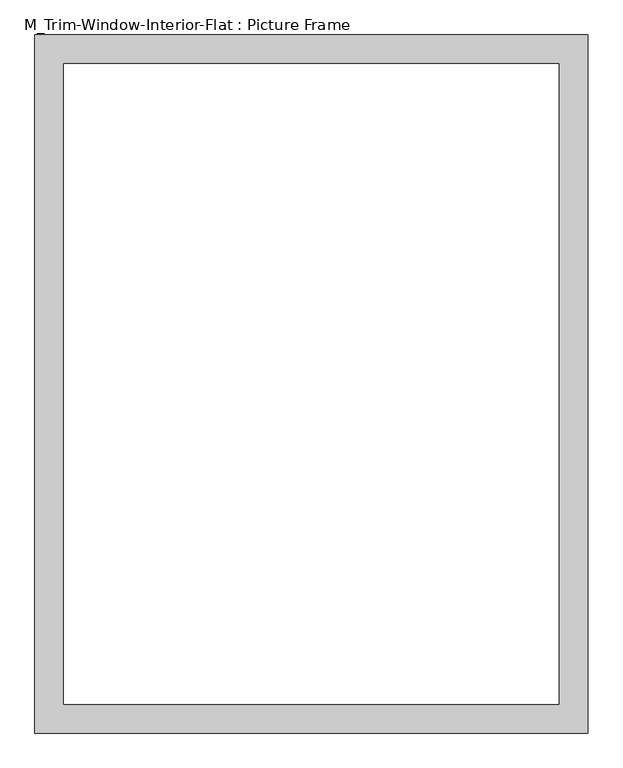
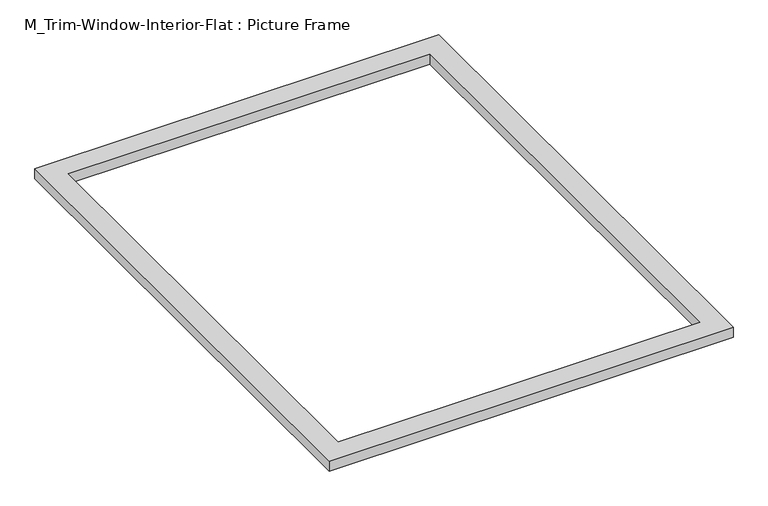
"""IFC4 building model written with IfcOpenShell, lengths in millimetres: proxy geometry, M_Trim-Window-Interior-Flat : Picture Frame."""

from ifc_helpers import new_model, si_unit, origin, origin_with_axes, place, context, project, spatial, polyline, outline, extrude, source, transform, mapped, element, save


def m_trim_window_interior_flat_picture_frame_ac477dd0(model_context):
    return source(origin(), model_context, "Body", "SweptSolid", [
        extrude(outline(polyline([(572.3, 47.3), (572.3, -1397.3), (-572.3, -1397.3), (-572.3, 47.3), (572.3, 47.3)]), holes=[polyline([(512.3, -12.7), (-512.3, -12.7), (-512.3, -1337.3), (512.3, -1337.3), (512.3, -12.7)])]), origin_with_axes(), (0.0, 0.0, 1.0), 30.0),
    ])


if __name__ == "__main__":
    model = new_model("IFC4")
    model_context = context("Model", 3, world=origin())
    ifc_project = project(units=[si_unit("LENGTHUNIT", "METRE", prefix="MILLI")], contexts=[model_context])
    site = spatial("IfcSite", under=ifc_project)
    building = spatial("IfcBuilding", under=site)
    placement = place(None, origin())
    m_trim_window_interior_flat_picture_frame_shape = m_trim_window_interior_flat_picture_frame_ac477dd0(model_context)
    element("IfcBuildingElementProxy", 1, Name="M_Trim-Window-Interior-Flat : Picture Frame", ObjectType="M_Trim-Window-Interior-Flat : Picture Frame", at=placement, inside=building, context=model_context, shape_type="MappedRepresentation", body=[
        mapped(m_trim_window_interior_flat_picture_frame_shape, transform((0.0, 0.0, 0.0), x_axis=(1.0, 0.0, 0.0), y_axis=(0.0, 1.0, 0.0), z_axis=(0.0, 0.0, 1.0))),
    ])
    save(model, "model.ifc")
